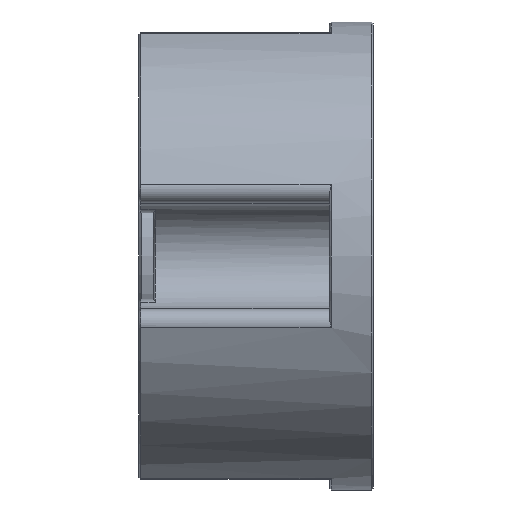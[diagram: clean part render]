
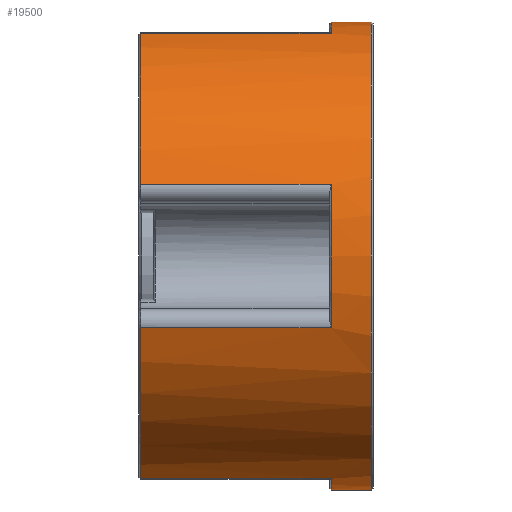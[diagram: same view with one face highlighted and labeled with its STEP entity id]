
A CAD part, left-side view. The second image highlights one B-rep face of the part: STEP entity #19500.
In plain terms, the highlighted cylindrical face has radius 15.975 mm (diameter 31.95 mm), a partial arc.
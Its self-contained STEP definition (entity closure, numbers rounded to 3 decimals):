
#639 = CIRCLE ( 'NONE', #2272, 15.975 ) ;
#1395 = CARTESIAN_POINT ( 'NONE',  ( 0., 8., -15.975 ) ) ;
#1979 = VERTEX_POINT ( 'NONE', #28163 ) ;
#2161 = CARTESIAN_POINT ( 'NONE',  ( 0., -7.875, 0. ) ) ;
#2272 = AXIS2_PLACEMENT_3D ( 'NONE', #31058, #2310, #5158 ) ;
#2294 = EDGE_CURVE ( 'NONE', #33836, #4905, #32074, .T. ) ;
#2310 = DIRECTION ( 'NONE',  ( 0., -1., 0. ) ) ;
#2357 = ORIENTED_EDGE ( 'NONE', *, *, #2294, .T. ) ;
#2360 = ORIENTED_EDGE ( 'NONE', *, *, #26325, .T. ) ;
#2434 = DIRECTION ( 'NONE',  ( 0., 0., -1. ) ) ;
#2467 = CARTESIAN_POINT ( 'NONE',  ( -4.907, -5.125, -15.203 ) ) ;
#2506 = ORIENTED_EDGE ( 'NONE', *, *, #8116, .T. ) ;
#2602 = CARTESIAN_POINT ( 'NONE',  ( -4.907, 7.875, -15.203 ) ) ;
#2636 = CARTESIAN_POINT ( 'NONE',  ( 0., -5.125, 0. ) ) ;
#3092 = CARTESIAN_POINT ( 'NONE',  ( -4.907, -5.125, 15.203 ) ) ;
#4315 = EDGE_CURVE ( 'NONE', #1979, #7149, #23431, .T. ) ;
#4462 = EDGE_CURVE ( 'NONE', #8262, #23015, #11174, .T. ) ;
#4504 = CIRCLE ( 'NONE', #32975, 15.975 ) ;
#4905 = VERTEX_POINT ( 'NONE', #19050 ) ;
#5158 = DIRECTION ( 'NONE',  ( 0., 0., 1. ) ) ;
#5565 = CIRCLE ( 'NONE', #16285, 15.975 ) ;
#6038 = VERTEX_POINT ( 'NONE', #14306 ) ;
#6497 = CYLINDRICAL_SURFACE ( 'NONE', #7651, 15.975 ) ;
#7149 = VERTEX_POINT ( 'NONE', #15978 ) ;
#7329 = DIRECTION ( 'NONE',  ( 0., -1., 0. ) ) ;
#7651 = AXIS2_PLACEMENT_3D ( 'NONE', #28419, #17848, #2434 ) ;
#8116 = EDGE_CURVE ( 'NONE', #9751, #1979, #9043, .T. ) ;
#8262 = VERTEX_POINT ( 'NONE', #3092 ) ;
#8720 = CARTESIAN_POINT ( 'NONE',  ( 0., -7.875, 15.975 ) ) ;
#8940 = LINE ( 'NONE', #21414, #15950 ) ;
#9043 = CIRCLE ( 'NONE', #24996, 15.975 ) ;
#9751 = VERTEX_POINT ( 'NONE', #2467 ) ;
#10034 = EDGE_CURVE ( 'NONE', #4905, #28486, #4504, .T. ) ;
#10692 = VERTEX_POINT ( 'NONE', #18369 ) ;
#10773 = CARTESIAN_POINT ( 'NONE',  ( 0., -5.125, 0. ) ) ;
#10863 = VECTOR ( 'NONE', #22207, 1000. ) ;
#10866 = DIRECTION ( 'NONE',  ( 0., 0., 1. ) ) ;
#10952 = CARTESIAN_POINT ( 'NONE',  ( 0., 7.875, 0. ) ) ;
#11174 = LINE ( 'NONE', #22605, #12834 ) ;
#12042 = VECTOR ( 'NONE', #32970, 1000. ) ;
#12834 = VECTOR ( 'NONE', #14976, 1000. ) ;
#13125 = DIRECTION ( 'NONE',  ( 0., 0., 1. ) ) ;
#13330 = AXIS2_PLACEMENT_3D ( 'NONE', #2161, #15952, #10866 ) ;
#13954 = CARTESIAN_POINT ( 'NONE',  ( 0., 8., 15.975 ) ) ;
#14270 = VERTEX_POINT ( 'NONE', #25445 ) ;
#14306 = CARTESIAN_POINT ( 'NONE',  ( -15.203, 7.875, 4.907 ) ) ;
#14559 = ORIENTED_EDGE ( 'NONE', *, *, #4462, .T. ) ;
#14611 = DIRECTION ( 'NONE',  ( 0., -1., 0. ) ) ;
#14976 = DIRECTION ( 'NONE',  ( 0., 1., 0. ) ) ;
#15538 = ORIENTED_EDGE ( 'NONE', *, *, #10034, .T. ) ;
#15889 = ORIENTED_EDGE ( 'NONE', *, *, #22076, .F. ) ;
#15950 = VECTOR ( 'NONE', #31792, 1000. ) ;
#15952 = DIRECTION ( 'NONE',  ( 0., 1., 0. ) ) ;
#15978 = CARTESIAN_POINT ( 'NONE',  ( 0., -7.875, -15.975 ) ) ;
#16175 = DIRECTION ( 'NONE',  ( 0., 0., 1. ) ) ;
#16285 = AXIS2_PLACEMENT_3D ( 'NONE', #10952, #26548, #19625 ) ;
#16356 = ORIENTED_EDGE ( 'NONE', *, *, #20274, .T. ) ;
#16419 = ORIENTED_EDGE ( 'NONE', *, *, #17664, .T. ) ;
#16842 = CIRCLE ( 'NONE', #13330, 15.975 ) ;
#17169 = FACE_OUTER_BOUND ( 'NONE', #31142, .T. ) ;
#17664 = EDGE_CURVE ( 'NONE', #7149, #21514, #16842, .T. ) ;
#17848 = DIRECTION ( 'NONE',  ( 0., -1., 0. ) ) ;
#18153 = VECTOR ( 'NONE', #32188, 1000. ) ;
#18278 = ORIENTED_EDGE ( 'NONE', *, *, #4315, .T. ) ;
#18369 = CARTESIAN_POINT ( 'NONE',  ( 0., -5.125, 15.975 ) ) ;
#18737 = CARTESIAN_POINT ( 'NONE',  ( -4.907, 7.875, 15.203 ) ) ;
#18903 = VECTOR ( 'NONE', #14611, 1000. ) ;
#19050 = CARTESIAN_POINT ( 'NONE',  ( -15.203, 7.875, -4.907 ) ) ;
#19500 = ADVANCED_FACE ( 'NONE', ( #17169 ), #6497, .T. ) ;
#19625 = DIRECTION ( 'NONE',  ( 0., 0., 1. ) ) ;
#19728 = CARTESIAN_POINT ( 'NONE',  ( -15.203, 8., 4.907 ) ) ;
#20274 = EDGE_CURVE ( 'NONE', #28486, #9751, #8940, .T. ) ;
#21414 = CARTESIAN_POINT ( 'NONE',  ( -4.907, 8., -15.203 ) ) ;
#21514 = VERTEX_POINT ( 'NONE', #8720 ) ;
#22076 = EDGE_CURVE ( 'NONE', #10692, #21514, #32014, .T. ) ;
#22207 = DIRECTION ( 'NONE',  ( 0., 1., 0. ) ) ;
#22605 = CARTESIAN_POINT ( 'NONE',  ( -4.907, 8., 15.203 ) ) ;
#22926 = EDGE_CURVE ( 'NONE', #10692, #8262, #639, .T. ) ;
#23015 = VERTEX_POINT ( 'NONE', #18737 ) ;
#23216 = EDGE_CURVE ( 'NONE', #23015, #6038, #5565, .T. ) ;
#23398 = DIRECTION ( 'NONE',  ( 0., 0., 1. ) ) ;
#23431 = LINE ( 'NONE', #1395, #12042 ) ;
#23688 = CIRCLE ( 'NONE', #32167, 15.975 ) ;
#24432 = ORIENTED_EDGE ( 'NONE', *, *, #22926, .T. ) ;
#24996 = AXIS2_PLACEMENT_3D ( 'NONE', #2636, #31493, #13125 ) ;
#25445 = CARTESIAN_POINT ( 'NONE',  ( -15.203, -5.125, 4.907 ) ) ;
#26325 = EDGE_CURVE ( 'NONE', #6038, #14270, #33588, .T. ) ;
#26548 = DIRECTION ( 'NONE',  ( 0., -1., 0. ) ) ;
#28163 = CARTESIAN_POINT ( 'NONE',  ( 0., -5.125, -15.975 ) ) ;
#28244 = ORIENTED_EDGE ( 'NONE', *, *, #23216, .T. ) ;
#28419 = CARTESIAN_POINT ( 'NONE',  ( 0., 8., 0. ) ) ;
#28426 = CARTESIAN_POINT ( 'NONE',  ( 0., 7.875, 0. ) ) ;
#28486 = VERTEX_POINT ( 'NONE', #2602 ) ;
#28755 = EDGE_CURVE ( 'NONE', #14270, #33836, #23688, .T. ) ;
#28791 = DIRECTION ( 'NONE',  ( 0., -1., 0. ) ) ;
#29882 = CARTESIAN_POINT ( 'NONE',  ( -15.203, -5.125, -4.907 ) ) ;
#31058 = CARTESIAN_POINT ( 'NONE',  ( 0., -5.125, 0. ) ) ;
#31142 = EDGE_LOOP ( 'NONE', ( #15889, #24432, #14559, #28244, #2360, #32931, #2357, #15538, #16356, #2506, #18278, #16419 ) ) ;
#31493 = DIRECTION ( 'NONE',  ( 0., -1., 0. ) ) ;
#31792 = DIRECTION ( 'NONE',  ( 0., -1., 0. ) ) ;
#32014 = LINE ( 'NONE', #13954, #18153 ) ;
#32074 = LINE ( 'NONE', #32261, #10863 ) ;
#32167 = AXIS2_PLACEMENT_3D ( 'NONE', #10773, #28791, #16175 ) ;
#32188 = DIRECTION ( 'NONE',  ( 0., -1., 0. ) ) ;
#32261 = CARTESIAN_POINT ( 'NONE',  ( -15.203, 8., -4.907 ) ) ;
#32931 = ORIENTED_EDGE ( 'NONE', *, *, #28755, .T. ) ;
#32970 = DIRECTION ( 'NONE',  ( 0., -1., 0. ) ) ;
#32975 = AXIS2_PLACEMENT_3D ( 'NONE', #28426, #7329, #23398 ) ;
#33588 = LINE ( 'NONE', #19728, #18903 ) ;
#33836 = VERTEX_POINT ( 'NONE', #29882 ) ;
